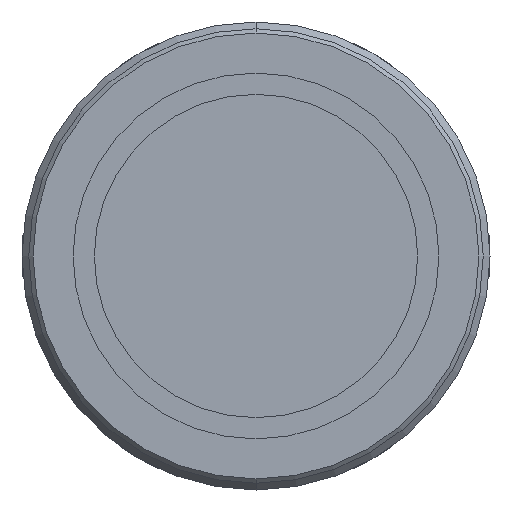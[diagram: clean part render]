
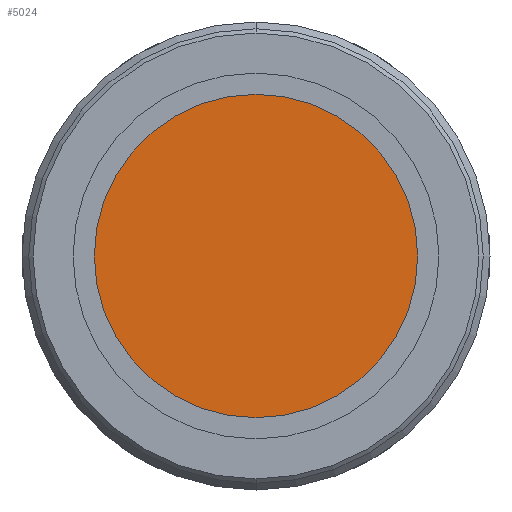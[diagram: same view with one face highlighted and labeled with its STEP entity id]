
A CAD part, front view. The second image highlights one B-rep face of the part: STEP entity #5024.
In plain terms, the highlighted planar face has unit normal (0, -1, 0).
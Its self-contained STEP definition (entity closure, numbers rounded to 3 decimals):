
#606 = DIRECTION ( 'NONE',  ( 0., 0., -1. ) ) ;
#749 = CIRCLE ( 'NONE', #7664, 19. ) ;
#1526 = VERTEX_POINT ( 'NONE', #8430 ) ;
#2676 = DIRECTION ( 'NONE',  ( 0., 1., 0. ) ) ;
#4062 = CARTESIAN_POINT ( 'NONE',  ( 0., -31.399, 0. ) ) ;
#4527 = EDGE_CURVE ( 'NONE', #9912, #1526, #8926, .T. ) ;
#5024 = ADVANCED_FACE ( 'NONE', ( #8755 ), #8619, .F. ) ;
#5089 = DIRECTION ( 'NONE',  ( 0., 0., -1. ) ) ;
#5750 = AXIS2_PLACEMENT_3D ( 'NONE', #6632, #2676, #9640 ) ;
#6515 = DIRECTION ( 'NONE',  ( 0., -1., 0. ) ) ;
#6632 = CARTESIAN_POINT ( 'NONE',  ( -19., -31.399, 0. ) ) ;
#6652 = AXIS2_PLACEMENT_3D ( 'NONE', #12484, #6515, #606 ) ;
#7338 = EDGE_LOOP ( 'NONE', ( #7541, #11357 ) ) ;
#7541 = ORIENTED_EDGE ( 'NONE', *, *, #9977, .T. ) ;
#7664 = AXIS2_PLACEMENT_3D ( 'NONE', #4062, #11025, #5089 ) ;
#8430 = CARTESIAN_POINT ( 'NONE',  ( 0., -31.399, -19. ) ) ;
#8619 = PLANE ( 'NONE',  #5750 ) ;
#8755 = FACE_OUTER_BOUND ( 'NONE', #7338, .T. ) ;
#8820 = CARTESIAN_POINT ( 'NONE',  ( 0., -31.399, 19. ) ) ;
#8926 = CIRCLE ( 'NONE', #6652, 19. ) ;
#9640 = DIRECTION ( 'NONE',  ( 0., 0., 1. ) ) ;
#9912 = VERTEX_POINT ( 'NONE', #8820 ) ;
#9977 = EDGE_CURVE ( 'NONE', #1526, #9912, #749, .T. ) ;
#11025 = DIRECTION ( 'NONE',  ( 0., -1., 0. ) ) ;
#11357 = ORIENTED_EDGE ( 'NONE', *, *, #4527, .T. ) ;
#12484 = CARTESIAN_POINT ( 'NONE',  ( 0., -31.399, 0. ) ) ;
